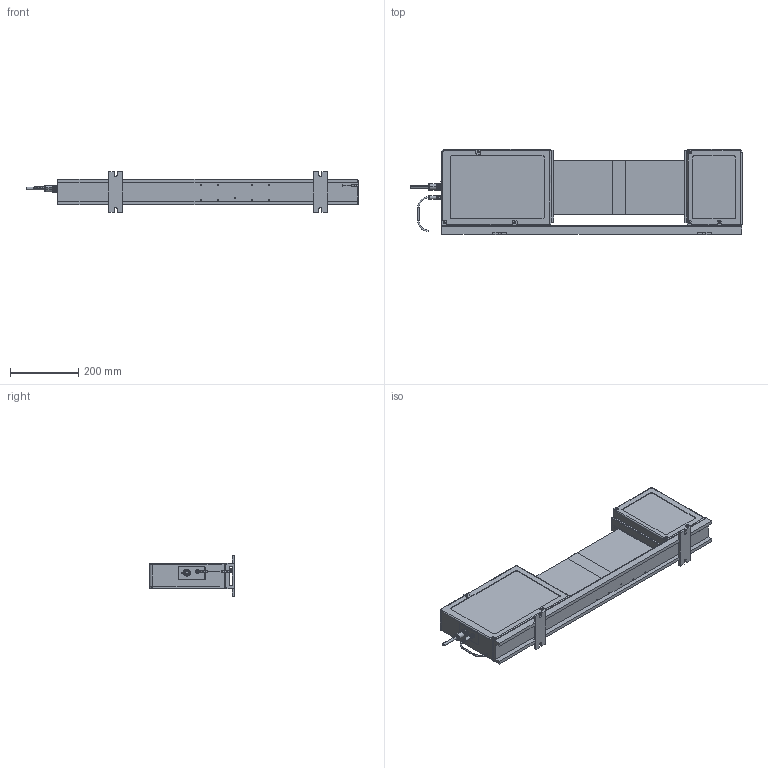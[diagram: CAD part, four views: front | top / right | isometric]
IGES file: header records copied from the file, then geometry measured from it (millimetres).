
Start section: Elysium IGES Interface
Global section: file name: 61HX:\users\kw_rdg\imaizumir\sagyou\LSM\00. 各商品\HP用\516S.igs; native system: Creo Elements/Direct Modeling 18.1C  24-Feb-2013; preprocessor: Creo Element/Direct IGES_3D V2.2; author: Unknown; organization: Unknown; date: 20150305.163203; units: millimetre
Bounding box: 972.68 x 249 x 120 mm (x, y, z)
Volume: 8506753.1 mm3; surface area: 758382.4 mm2
Topology: 8 solids, 8 shells, 1356 faces, 3220 edges, 1958 vertices
Faces by surface type: bspline 1356
